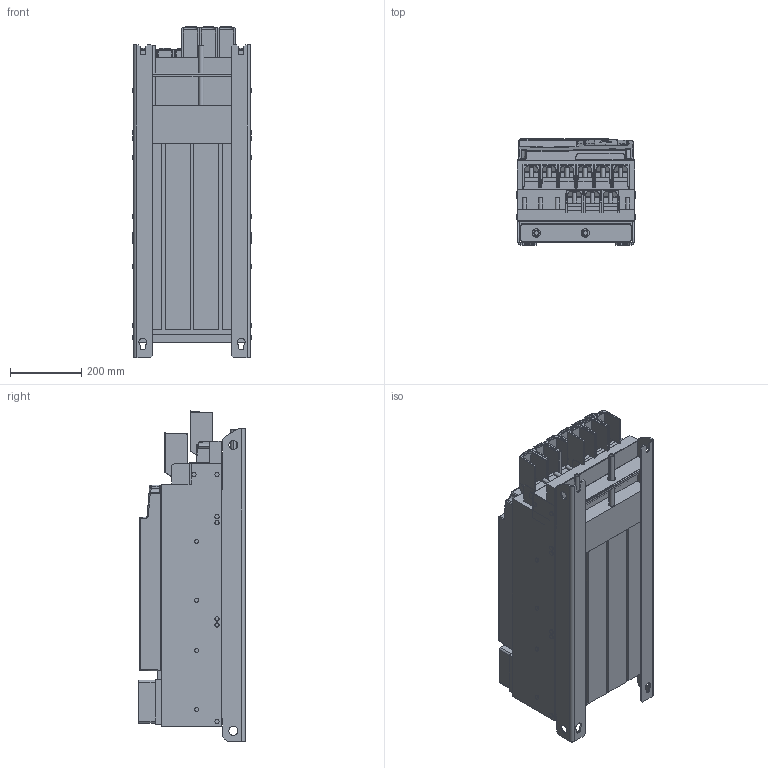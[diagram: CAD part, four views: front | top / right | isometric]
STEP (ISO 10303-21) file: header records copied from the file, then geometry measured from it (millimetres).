
FILE_DESCRIPTION (( 'STEP AP214' ), '1' );
FILE_NAME ('F6-8TW0-A011.STEP', '2021-03-01T14:44:11', ( '' ), ( '' ), 'SwSTEP 2.0', 'SolidWorks 2019', '' );
FILE_SCHEMA (( 'AUTOMOTIVE_DESIGN' ));
Length unit declared in the file: millimetre
Products named in the file (13): F6-8TW0-A011; 10044643_000_Kundenmodell; 10063225_000; 10059761_000; 10038044_000_Kundemodell; 10059764_000_Blindabdeckung (Kundenmodell); 10040552_000_Kundenmodell; 10063180_000; 10059765_000; 10063897_000; 10047771_000_Kundenmodell; 10063887_000_F6-8 Leistungsteil TW0 (Kundenmodell + BW); 10063199_000
Assembly tree (12 placements, depth 4):
  F6-8TW0-A011
    10063887_000_F6-8 Leistungsteil TW0 (Kundenmodell + BW)
      10038044_000_Kundemodell
        10063180_000
      10063897_000
    10040552_000_Kundenmodell
      10047771_000_Kundenmodell
        10063225_000
      10063199_000
    10044643_000_Kundenmodell
      10059764_000_Blindabdeckung (Kundenmodell)
        10059765_000
      10059761_000
Bounding box: 335.5 x 296.9 x 926.37 mm (x, y, z)
Volume: 65159712.3 mm3; surface area: 3063489.7 mm2
Topology: 6 solids, 31 shells, 2877 faces, 7290 edges, 4501 vertices
Faces by surface type: plane 1542, cylinder 801, bspline 219, sphere 154, cone 98, torus 63
Entity records: 91927 total; most frequent: CARTESIAN_POINT 24287, ORIENTED_EDGE 14358, DIRECTION 13414, EDGE_CURVE 7179, LINE 4688, VECTOR 4688, VERTEX_POINT 4498, AXIS2_PLACEMENT_3D 4363
